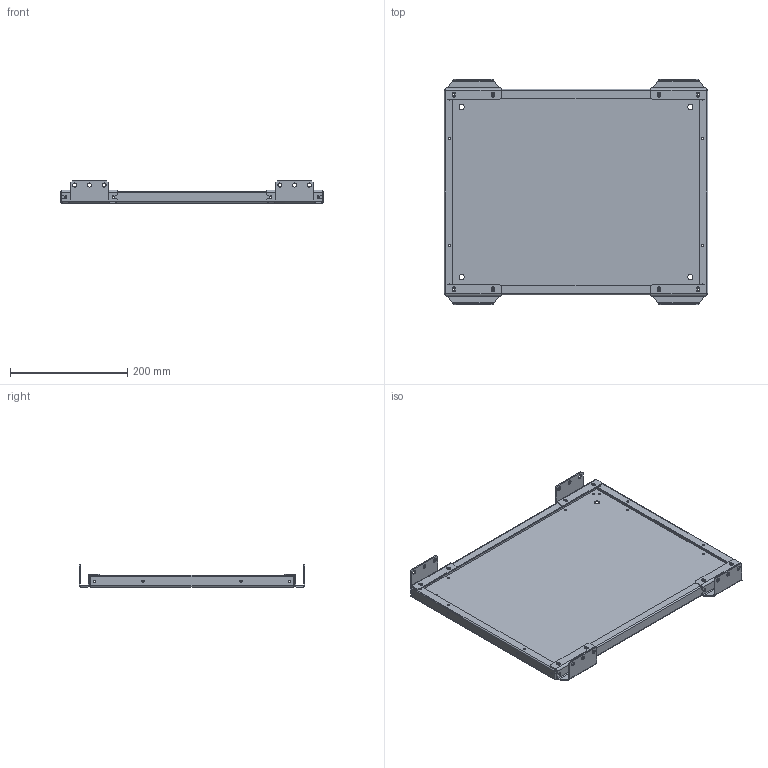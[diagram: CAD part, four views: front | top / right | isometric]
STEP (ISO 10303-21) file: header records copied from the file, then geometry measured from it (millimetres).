
FILE_DESCRIPTION (( 'STEP AP203' ), '1' );
FILE_NAME ('MP 45.35 M Ïàíåëü ìîíòàæíàÿ ñåêöèîííàÿ (ãîðèçîíòàëüíîå êðåïëåíèå).STEP', '2021-04-06T07:14:24', ( '' ), ( '' ), 'SwSTEP 2.0', 'SolidWorks 2018', '' );
FILE_SCHEMA (( 'CONFIG_CONTROL_DESIGN' ));
Length unit declared in the file: millimetre
Products named in the file (1): MP 45.35 M Ïàíåëü ìîíòàæíàÿ ñåêöèîííàÿ (ãîðèçîíòàëüíîå êðåïëåíèå)
Bounding box: 450 x 385 x 37.75 mm (x, y, z)
Volume: 460731.9 mm3; surface area: 468834.3 mm2
Topology: 5 solids, 5 shells, 388 faces, 1016 edges, 632 vertices
Faces by surface type: cylinder 196, plane 168, bspline 16, sphere 8
Entity records: 12713 total; most frequent: CARTESIAN_POINT 2749, DIRECTION 2050, ORIENTED_EDGE 2016, EDGE_CURVE 1008, AXIS2_PLACEMENT_3D 733, VERTEX_POINT 632, LINE 584, VECTOR 584
